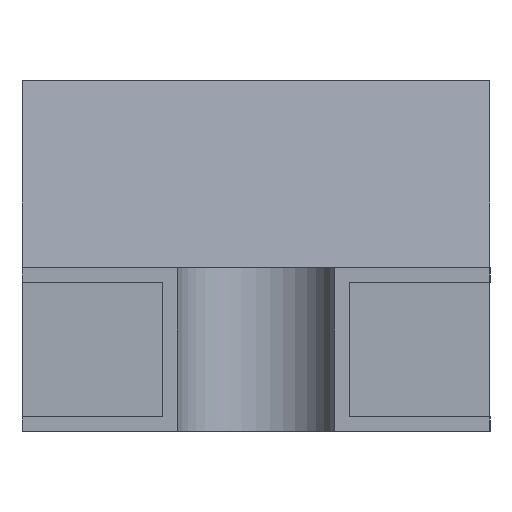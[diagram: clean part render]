
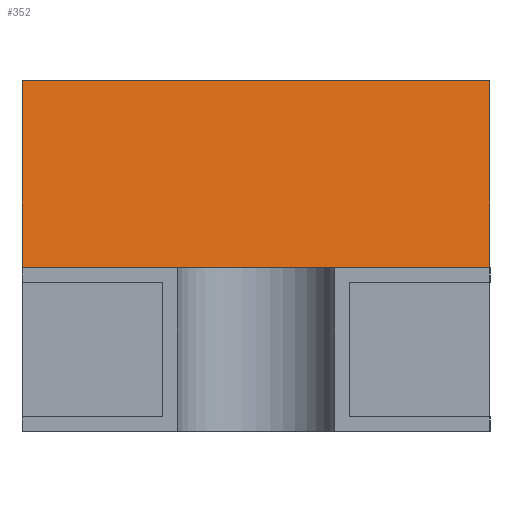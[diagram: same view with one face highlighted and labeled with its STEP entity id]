
A CAD part, front view. The second image highlights one B-rep face of the part: STEP entity #352.
In plain terms, the highlighted planar face has unit normal (0, -0.993, 0.122).
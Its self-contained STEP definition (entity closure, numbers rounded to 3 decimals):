
#352 = ADVANCED_FACE('',(#353),#387,.T.);
#353 = FACE_BOUND('',#354,.T.);
#354 = EDGE_LOOP('',(#355,#365,#373,#381));
#355 = ORIENTED_EDGE('',*,*,#356,.T.);
#356 = EDGE_CURVE('',#357,#359,#361,.T.);
#357 = VERTEX_POINT('',#358);
#358 = CARTESIAN_POINT('',(0.4,-0.458,0.6));
#359 = VERTEX_POINT('',#360);
#360 = CARTESIAN_POINT('',(-0.4,-0.458,0.6));
#361 = LINE('',#362,#363);
#362 = CARTESIAN_POINT('',(0.4,-0.458,0.6));
#363 = VECTOR('',#364,1.);
#364 = DIRECTION('',(-1.,-0.,-0.));
#365 = ORIENTED_EDGE('',*,*,#366,.T.);
#366 = EDGE_CURVE('',#359,#367,#369,.T.);
#367 = VERTEX_POINT('',#368);
#368 = CARTESIAN_POINT('',(-0.4,-0.5,0.255));
#369 = LINE('',#370,#371);
#370 = CARTESIAN_POINT('',(-0.4,-0.458,0.6));
#371 = VECTOR('',#372,1.);
#372 = DIRECTION('',(0.,-0.122,-0.993));
#373 = ORIENTED_EDGE('',*,*,#374,.F.);
#374 = EDGE_CURVE('',#375,#367,#377,.T.);
#375 = VERTEX_POINT('',#376);
#376 = CARTESIAN_POINT('',(0.4,-0.5,0.255));
#377 = LINE('',#378,#379);
#378 = CARTESIAN_POINT('',(0.4,-0.5,0.255));
#379 = VECTOR('',#380,1.);
#380 = DIRECTION('',(-1.,-0.,-0.));
#381 = ORIENTED_EDGE('',*,*,#382,.F.);
#382 = EDGE_CURVE('',#357,#375,#383,.T.);
#383 = LINE('',#384,#385);
#384 = CARTESIAN_POINT('',(0.4,-0.458,0.6));
#385 = VECTOR('',#386,1.);
#386 = DIRECTION('',(0.,-0.122,-0.993));
#387 = PLANE('',#388);
#388 = AXIS2_PLACEMENT_3D('',#389,#390,#391);
#389 = CARTESIAN_POINT('',(0.4,-0.458,0.6));
#390 = DIRECTION('',(0.,-0.993,0.122));
#391 = DIRECTION('',(0.,-0.122,-0.993));
